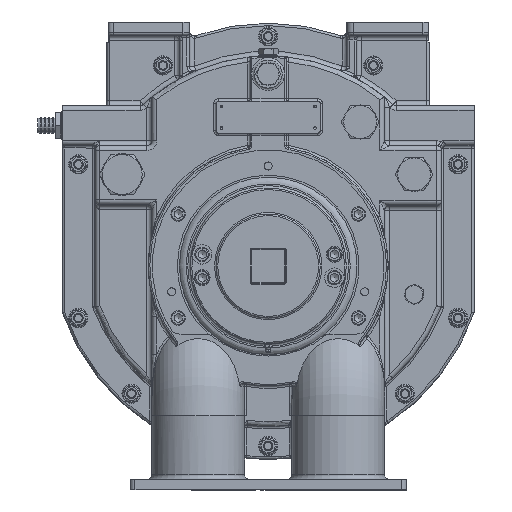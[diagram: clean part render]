
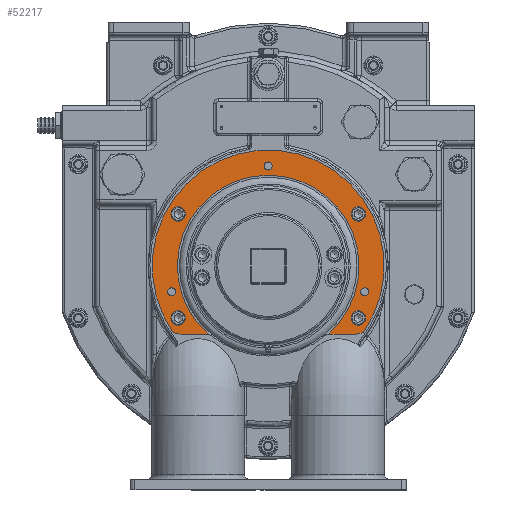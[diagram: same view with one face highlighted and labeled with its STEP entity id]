
A CAD part, front view. The second image highlights one B-rep face of the part: STEP entity #52217.
In plain terms, the highlighted planar face has unit normal (0, -1, 0) as drawn and (1, 0, 0) by its records, which use the part's own axes.
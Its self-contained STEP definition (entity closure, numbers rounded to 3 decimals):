
#4529=FACE_BOUND('',#11713,.T.);
#4530=FACE_BOUND('',#11714,.T.);
#4531=FACE_BOUND('',#11715,.T.);
#4532=FACE_BOUND('',#11716,.T.);
#4533=FACE_BOUND('',#11717,.T.);
#4534=FACE_BOUND('',#11718,.T.);
#4535=FACE_BOUND('',#11719,.T.);
#6006=PLANE('',#56253);
#8515=FACE_OUTER_BOUND('',#11712,.T.);
#11712=EDGE_LOOP('',(#39296,#39297,#39298,#39299,#39300,#39301,#39302,#39303));
#11713=EDGE_LOOP('',(#39304));
#11714=EDGE_LOOP('',(#39305));
#11715=EDGE_LOOP('',(#39306));
#11716=EDGE_LOOP('',(#39307));
#11717=EDGE_LOOP('',(#39308));
#11718=EDGE_LOOP('',(#39309));
#11719=EDGE_LOOP('',(#39310));
#15032=LINE('',#78908,#18419);
#15042=LINE('',#78963,#18429);
#18419=VECTOR('',#63291,10.);
#18429=VECTOR('',#63351,10.);
#21703=CIRCLE('',#55964,9.);
#21708=CIRCLE('',#55979,9.);
#21713=CIRCLE('',#55994,9.);
#21718=CIRCLE('',#56009,9.);
#21829=CIRCLE('',#56232,6.);
#21833=CIRCLE('',#56238,6.);
#21838=CIRCLE('',#56245,5.053);
#21840=CIRCLE('',#56248,5.053);
#21842=CIRCLE('',#56251,5.053);
#21844=CIRCLE('',#56254,20.);
#21845=CIRCLE('',#56255,145.);
#21846=CIRCLE('',#56256,20.);
#21847=CIRCLE('',#56257,113.5);
#24477=VERTEX_POINT('',#78060);
#24495=VERTEX_POINT('',#78128);
#24513=VERTEX_POINT('',#78196);
#24531=VERTEX_POINT('',#78264);
#24699=VERTEX_POINT('',#78905);
#24700=VERTEX_POINT('',#78907);
#24704=VERTEX_POINT('',#78917);
#24708=VERTEX_POINT('',#78929);
#24709=VERTEX_POINT('',#78931);
#24714=VERTEX_POINT('',#78944);
#24716=VERTEX_POINT('',#78950);
#24718=VERTEX_POINT('',#78956);
#24720=VERTEX_POINT('',#78962);
#24721=VERTEX_POINT('',#78964);
#24722=VERTEX_POINT('',#78966);
#29746=EDGE_CURVE('',#24477,#24477,#21703,.T.);
#29772=EDGE_CURVE('',#24495,#24495,#21708,.T.);
#29798=EDGE_CURVE('',#24513,#24513,#21713,.T.);
#29824=EDGE_CURVE('',#24531,#24531,#21718,.T.);
#30083=EDGE_CURVE('',#24699,#24700,#15032,.T.);
#30089=EDGE_CURVE('',#24704,#24699,#21829,.T.);
#30095=EDGE_CURVE('',#24708,#24709,#21833,.T.);
#30101=EDGE_CURVE('',#24714,#24714,#21838,.T.);
#30104=EDGE_CURVE('',#24716,#24716,#21840,.T.);
#30107=EDGE_CURVE('',#24718,#24718,#21842,.T.);
#30110=EDGE_CURVE('',#24720,#24708,#15042,.T.);
#30111=EDGE_CURVE('',#24721,#24720,#21844,.T.);
#30112=EDGE_CURVE('',#24722,#24721,#21845,.T.);
#30113=EDGE_CURVE('',#24700,#24722,#21846,.T.);
#30114=EDGE_CURVE('',#24709,#24704,#21847,.T.);
#39296=ORIENTED_EDGE('',*,*,#30095,.F.);
#39297=ORIENTED_EDGE('',*,*,#30110,.F.);
#39298=ORIENTED_EDGE('',*,*,#30111,.F.);
#39299=ORIENTED_EDGE('',*,*,#30112,.F.);
#39300=ORIENTED_EDGE('',*,*,#30113,.F.);
#39301=ORIENTED_EDGE('',*,*,#30083,.F.);
#39302=ORIENTED_EDGE('',*,*,#30089,.F.);
#39303=ORIENTED_EDGE('',*,*,#30114,.F.);
#39304=ORIENTED_EDGE('',*,*,#29746,.T.);
#39305=ORIENTED_EDGE('',*,*,#29772,.T.);
#39306=ORIENTED_EDGE('',*,*,#29798,.T.);
#39307=ORIENTED_EDGE('',*,*,#29824,.T.);
#39308=ORIENTED_EDGE('',*,*,#30101,.T.);
#39309=ORIENTED_EDGE('',*,*,#30104,.T.);
#39310=ORIENTED_EDGE('',*,*,#30107,.T.);
#52217=ADVANCED_FACE('',(#8515,#4529,#4530,#4531,#4532,#4533,#4534,#4535),
#6006,.F.);
#55964=AXIS2_PLACEMENT_3D('',#78061,#62606,#62607);
#55979=AXIS2_PLACEMENT_3D('',#78129,#62650,#62651);
#55994=AXIS2_PLACEMENT_3D('',#78197,#62694,#62695);
#56009=AXIS2_PLACEMENT_3D('',#78265,#62738,#62739);
#56232=AXIS2_PLACEMENT_3D('',#78919,#63301,#63302);
#56238=AXIS2_PLACEMENT_3D('',#78932,#63315,#63316);
#56245=AXIS2_PLACEMENT_3D('',#78945,#63330,#63331);
#56248=AXIS2_PLACEMENT_3D('',#78951,#63337,#63338);
#56251=AXIS2_PLACEMENT_3D('',#78957,#63344,#63345);
#56253=AXIS2_PLACEMENT_3D('',#78961,#63349,#63350);
#56254=AXIS2_PLACEMENT_3D('',#78965,#63352,#63353);
#56255=AXIS2_PLACEMENT_3D('',#78967,#63354,#63355);
#56256=AXIS2_PLACEMENT_3D('',#78968,#63356,#63357);
#56257=AXIS2_PLACEMENT_3D('',#78969,#63358,#63359);
#62606=DIRECTION('center_axis',(-1.,0.,0.));
#62607=DIRECTION('ref_axis',(0.,1.,0.));
#62650=DIRECTION('center_axis',(-1.,0.,0.));
#62651=DIRECTION('ref_axis',(0.,1.,0.));
#62694=DIRECTION('center_axis',(-1.,0.,0.));
#62695=DIRECTION('ref_axis',(0.,1.,0.));
#62738=DIRECTION('center_axis',(-1.,0.,0.));
#62739=DIRECTION('ref_axis',(0.,1.,0.));
#63291=DIRECTION('',(0.,-1.,0.));
#63301=DIRECTION('center_axis',(1.,0.,0.));
#63302=DIRECTION('ref_axis',(0.,0.341,0.94));
#63315=DIRECTION('center_axis',(1.,0.,0.));
#63316=DIRECTION('ref_axis',(0.,-0.341,0.94));
#63330=DIRECTION('center_axis',(-1.,0.,0.));
#63331=DIRECTION('ref_axis',(0.,-1.,0.));
#63337=DIRECTION('center_axis',(-1.,0.,0.));
#63338=DIRECTION('ref_axis',(0.,-1.,0.));
#63344=DIRECTION('center_axis',(-1.,0.,0.));
#63345=DIRECTION('ref_axis',(0.,-1.,0.));
#63349=DIRECTION('center_axis',(-1.,0.,0.));
#63350=DIRECTION('ref_axis',(0.,1.,0.));
#63351=DIRECTION('',(0.,-1.,0.));
#63352=DIRECTION('center_axis',(-1.,0.,0.));
#63353=DIRECTION('ref_axis',(0.,0.496,-0.868));
#63354=DIRECTION('center_axis',(-1.,0.,0.));
#63355=DIRECTION('ref_axis',(0.,-1.,0.));
#63356=DIRECTION('center_axis',(-1.,0.,0.));
#63357=DIRECTION('ref_axis',(0.,-0.496,-0.868));
#63358=DIRECTION('center_axis',(1.,0.,0.));
#63359=DIRECTION('ref_axis',(0.,1.,0.));
#78060=CARTESIAN_POINT('',(264.5,-121.583,34.));
#78061=CARTESIAN_POINT('Origin',(264.5,-112.583,34.));
#78128=CARTESIAN_POINT('',(264.5,-121.583,-96.));
#78129=CARTESIAN_POINT('Origin',(264.5,-112.583,-96.));
#78196=CARTESIAN_POINT('',(264.5,103.583,-96.));
#78197=CARTESIAN_POINT('Origin',(264.5,112.583,-96.));
#78264=CARTESIAN_POINT('',(264.5,103.583,34.));
#78265=CARTESIAN_POINT('Origin',(264.5,112.583,34.));
#78905=CARTESIAN_POINT('',(264.5,-75.903,-116.));
#78907=CARTESIAN_POINT('',(264.5,-110.268,-116.));
#78908=CARTESIAN_POINT('',(264.5,-36.849,-116.));
#78917=CARTESIAN_POINT('',(264.5,-75.163,-116.046));
#78919=CARTESIAN_POINT('Origin',(264.5,-75.903,-122.));
#78929=CARTESIAN_POINT('',(264.5,75.903,-116.));
#78931=CARTESIAN_POINT('',(264.5,75.163,-116.046));
#78932=CARTESIAN_POINT('Origin',(264.5,75.903,-122.));
#78944=CARTESIAN_POINT('',(264.5,5.053,94.));
#78945=CARTESIAN_POINT('Origin',(264.5,0.,
94.));
#78950=CARTESIAN_POINT('',(264.5,125.794,-63.352));
#78951=CARTESIAN_POINT('Origin',(264.5,120.741,-63.352));
#78956=CARTESIAN_POINT('',(264.5,-115.688,-63.352));
#78957=CARTESIAN_POINT('Origin',(264.5,-120.741,-63.352));
#78961=CARTESIAN_POINT('Origin',(264.5,0.,
-31.));
#78962=CARTESIAN_POINT('',(264.5,110.268,-116.));
#78963=CARTESIAN_POINT('',(264.5,60.578,-116.));
#78964=CARTESIAN_POINT('',(264.5,118.849,-114.065));
#78965=CARTESIAN_POINT('Origin',(264.5,110.268,-96.));
#78966=CARTESIAN_POINT('',(264.5,-118.849,-114.065));
#78967=CARTESIAN_POINT('Origin',(264.5,0.,
-31.));
#78968=CARTESIAN_POINT('Origin',(264.5,-110.268,-96.));
#78969=CARTESIAN_POINT('Origin',(264.5,0.,
-31.));
